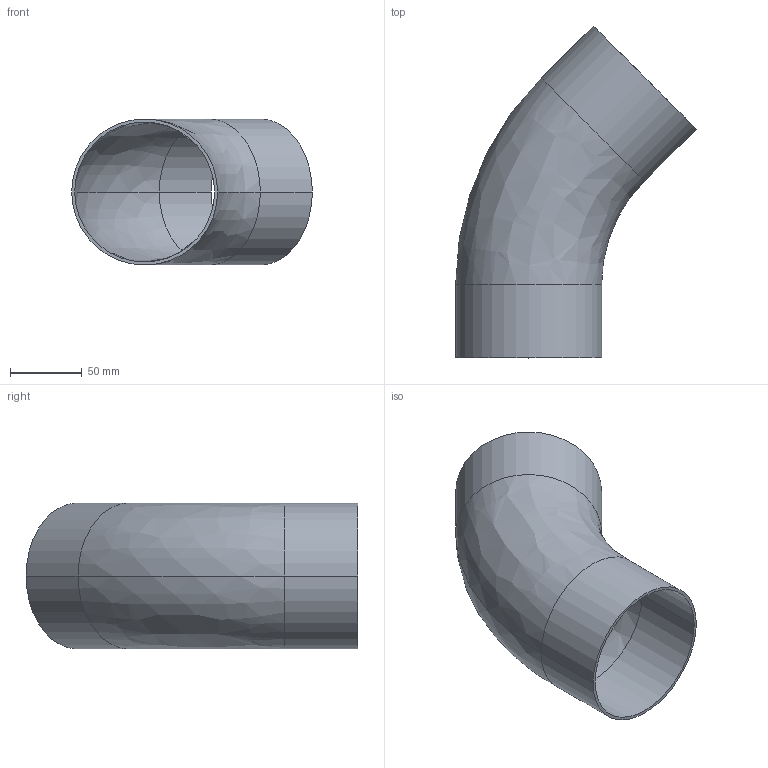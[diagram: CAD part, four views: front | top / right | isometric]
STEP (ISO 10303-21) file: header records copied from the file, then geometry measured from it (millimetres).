
FILE_DESCRIPTION (( 'STEP AP214' ), '1' );
FILE_NAME ('TE2KS6L4.0-...STEP', '2016-05-22T06:54:31', ( 'eran' ), ( '' ), 'SwSTEP 2.0', 'SolidWorks 2016', '' );
FILE_SCHEMA (( 'AUTOMOTIVE_DESIGN' ));
Length unit declared in the file: millimetre
Products named in the file (1): TE2KS6L4.0-..
Bounding box: 167.54 x 231.04 x 101.6 mm (x, y, z)
Volume: 146435.9 mm3; surface area: 140120.7 mm2
Topology: 1 solids, 1 shells, 14 faces, 28 edges, 16 vertices
Faces by surface type: cylinder 8, bspline 4, plane 2
Entity records: 450 total; most frequent: CARTESIAN_POINT 119, DIRECTION 70, ORIENTED_EDGE 56, AXIS2_PLACEMENT_3D 31, EDGE_CURVE 28, CIRCLE 20, VERTEX_POINT 16, EDGE_LOOP 16
